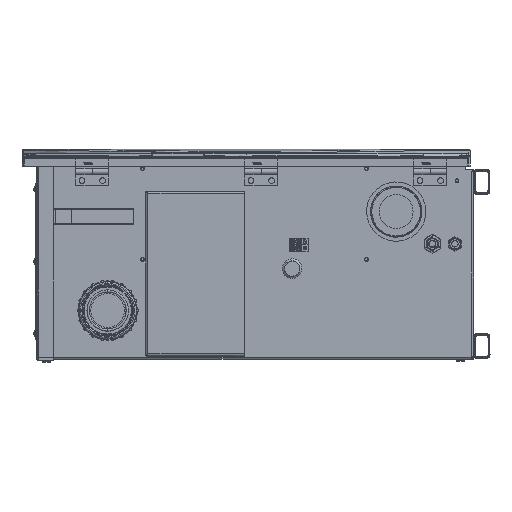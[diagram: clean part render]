
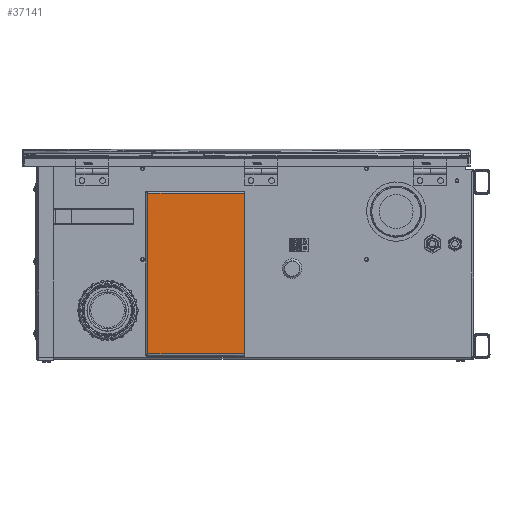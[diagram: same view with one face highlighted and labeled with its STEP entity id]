
A CAD part, left-side view. The second image highlights one B-rep face of the part: STEP entity #37141.
In plain terms, the highlighted planar face has unit normal (-1, 0, 0).
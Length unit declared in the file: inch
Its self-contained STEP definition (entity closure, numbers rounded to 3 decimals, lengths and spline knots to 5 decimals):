
#8305 = EDGE_CURVE ( 'NONE', #55482, #82458, #53590, .T. ) ;
#11394 = CARTESIAN_POINT ( 'NONE',  ( -17.2125, -3.8125, 2.24069 ) ) ;
#11997 = VECTOR ( 'NONE', #129177, 39.37008 ) ;
#14615 = CARTESIAN_POINT ( 'NONE',  ( -17.2125, -0.90284, -2.63381 ) ) ;
#21715 = DIRECTION ( 'NONE',  ( 0., 0., 1. ) ) ;
#23004 = AXIS2_PLACEMENT_3D ( 'NONE', #11394, #83423, #21715 ) ;
#24708 = DIRECTION ( 'NONE',  ( 0., 1., 0. ) ) ;
#24951 = DIRECTION ( 'NONE',  ( 0., -1., 0. ) ) ;
#25158 = LINE ( 'NONE', #14615, #131365 ) ;
#36598 = CARTESIAN_POINT ( 'NONE',  ( -17.2125, -0.938, 7.15035 ) ) ;
#37141 = ADVANCED_FACE ( 'NONE', ( #95706 ), #82981, .T. ) ;
#39436 = LINE ( 'NONE', #36598, #11997 ) ;
#44659 = ORIENTED_EDGE ( 'NONE', *, *, #113702, .T. ) ;
#48756 = EDGE_CURVE ( 'NONE', #102472, #70624, #39436, .T. ) ;
#49944 = CARTESIAN_POINT ( 'NONE',  ( -17.2125, -0.938, -2.63381 ) ) ;
#51671 = CARTESIAN_POINT ( 'NONE',  ( -17.2125, -6.8125, -2.75931 ) ) ;
#53590 = LINE ( 'NONE', #51671, #132390 ) ;
#54773 = DIRECTION ( 'NONE',  ( 0., 0., 1. ) ) ;
#55482 = VERTEX_POINT ( 'NONE', #58021 ) ;
#56977 = ORIENTED_EDGE ( 'NONE', *, *, #8305, .T. ) ;
#58021 = CARTESIAN_POINT ( 'NONE',  ( -17.2125, -6.8125, -2.63381 ) ) ;
#58957 = EDGE_CURVE ( 'NONE', #82458, #102472, #74416, .T. ) ;
#70624 = VERTEX_POINT ( 'NONE', #49944 ) ;
#74416 = LINE ( 'NONE', #76033, #129103 ) ;
#74940 = CARTESIAN_POINT ( 'NONE',  ( -17.2125, -0.938, 7.11519 ) ) ;
#76033 = CARTESIAN_POINT ( 'NONE',  ( -17.2125, -6.8125, 7.11519 ) ) ;
#76990 = ORIENTED_EDGE ( 'NONE', *, *, #48756, .T. ) ;
#82458 = VERTEX_POINT ( 'NONE', #95538 ) ;
#82981 = PLANE ( 'NONE',  #23004 ) ;
#83423 = DIRECTION ( 'NONE',  ( -1., 0., 0. ) ) ;
#89876 = EDGE_LOOP ( 'NONE', ( #76990, #44659, #56977, #99909 ) ) ;
#95538 = CARTESIAN_POINT ( 'NONE',  ( -17.2125, -6.8125, 7.11519 ) ) ;
#95706 = FACE_OUTER_BOUND ( 'NONE', #89876, .T. ) ;
#99909 = ORIENTED_EDGE ( 'NONE', *, *, #58957, .T. ) ;
#102472 = VERTEX_POINT ( 'NONE', #74940 ) ;
#113702 = EDGE_CURVE ( 'NONE', #70624, #55482, #25158, .T. ) ;
#129103 = VECTOR ( 'NONE', #24708, 39.37008 ) ;
#129177 = DIRECTION ( 'NONE',  ( 0., 0., -1. ) ) ;
#131365 = VECTOR ( 'NONE', #24951, 39.37008 ) ;
#132390 = VECTOR ( 'NONE', #54773, 39.37008 ) ;
